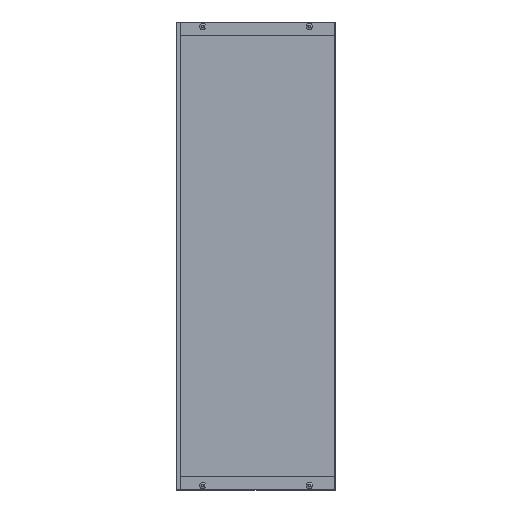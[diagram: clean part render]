
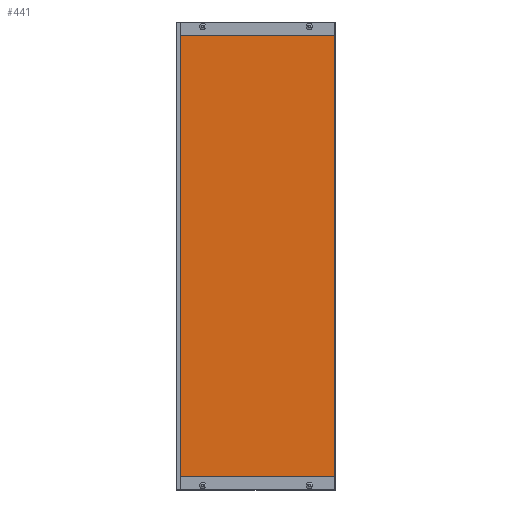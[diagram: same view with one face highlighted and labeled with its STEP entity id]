
A CAD part, front view. The second image highlights one B-rep face of the part: STEP entity #441.
In plain terms, the highlighted planar face has unit normal (0, -1, 0).
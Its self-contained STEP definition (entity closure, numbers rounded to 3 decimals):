
#132 = VECTOR ( 'NONE', #2017, 1000. ) ;
#174 = CARTESIAN_POINT ( 'NONE',  ( -6.6, 61.1, 854. ) ) ;
#223 = DIRECTION ( 'NONE',  ( 0., 1., 0. ) ) ;
#285 = CARTESIAN_POINT ( 'NONE',  ( -8., 61.1, 25. ) ) ;
#300 = CARTESIAN_POINT ( 'NONE',  ( -6.6, 61.1, 879. ) ) ;
#441 = ADVANCED_FACE ( 'NONE', ( #2257 ), #980, .F. ) ;
#490 = DIRECTION ( 'NONE',  ( 0., 0., 1. ) ) ;
#641 = ORIENTED_EDGE ( 'NONE', *, *, #2429, .T. ) ;
#682 = CARTESIAN_POINT ( 'NONE',  ( 288.6, 61.1, 25. ) ) ;
#695 = VECTOR ( 'NONE', #1427, 1000. ) ;
#854 = VERTEX_POINT ( 'NONE', #682 ) ;
#875 = VECTOR ( 'NONE', #1957, 1000. ) ;
#876 = LINE ( 'NONE', #300, #1812 ) ;
#963 = CARTESIAN_POINT ( 'NONE',  ( 0., 61.1, 854. ) ) ;
#973 = ORIENTED_EDGE ( 'NONE', *, *, #1889, .F. ) ;
#980 = PLANE ( 'NONE',  #2848 ) ;
#1155 = ORIENTED_EDGE ( 'NONE', *, *, #3135, .T. ) ;
#1232 = CARTESIAN_POINT ( 'NONE',  ( -6.6, 61.1, 25. ) ) ;
#1309 = VERTEX_POINT ( 'NONE', #174 ) ;
#1427 = DIRECTION ( 'NONE',  ( 0., 0., 1. ) ) ;
#1512 = CARTESIAN_POINT ( 'NONE',  ( 288.6, 61.1, 854. ) ) ;
#1812 = VECTOR ( 'NONE', #2327, 1000. ) ;
#1889 = EDGE_CURVE ( 'NONE', #854, #2240, #2753, .T. ) ;
#1957 = DIRECTION ( 'NONE',  ( -1., 0., 0. ) ) ;
#2017 = DIRECTION ( 'NONE',  ( -1., 0., 0. ) ) ;
#2129 = EDGE_CURVE ( 'NONE', #2199, #1309, #3220, .T. ) ;
#2199 = VERTEX_POINT ( 'NONE', #1512 ) ;
#2240 = VERTEX_POINT ( 'NONE', #1232 ) ;
#2257 = FACE_OUTER_BOUND ( 'NONE', #2360, .T. ) ;
#2327 = DIRECTION ( 'NONE',  ( 0., 0., -1. ) ) ;
#2360 = EDGE_LOOP ( 'NONE', ( #1155, #3245, #641, #973 ) ) ;
#2429 = EDGE_CURVE ( 'NONE', #1309, #2240, #876, .T. ) ;
#2507 = CARTESIAN_POINT ( 'NONE',  ( -8., 61.1, 879. ) ) ;
#2753 = LINE ( 'NONE', #285, #132 ) ;
#2848 = AXIS2_PLACEMENT_3D ( 'NONE', #2507, #223, #490 ) ;
#2935 = CARTESIAN_POINT ( 'NONE',  ( 288.6, 61.1, 879. ) ) ;
#2986 = LINE ( 'NONE', #2935, #695 ) ;
#3135 = EDGE_CURVE ( 'NONE', #854, #2199, #2986, .T. ) ;
#3220 = LINE ( 'NONE', #963, #875 ) ;
#3245 = ORIENTED_EDGE ( 'NONE', *, *, #2129, .T. ) ;
